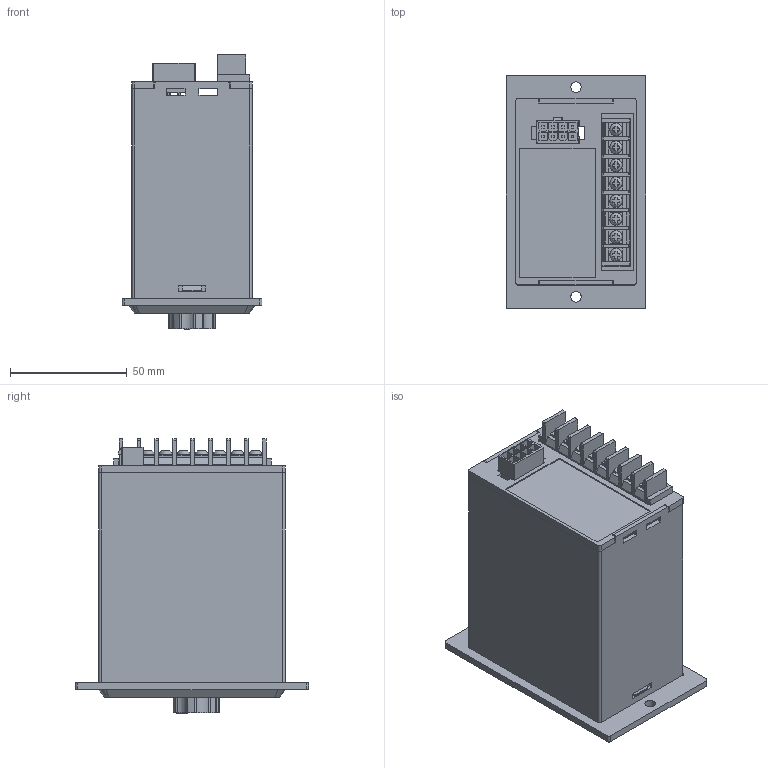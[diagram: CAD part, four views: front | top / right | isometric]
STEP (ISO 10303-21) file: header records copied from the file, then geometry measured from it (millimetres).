
FILE_DESCRIPTION((''),'2;1');
FILE_NAME('D:\yang\Yang cw\SPG 업무\2. DC MOTOR\7. DC MOTOR 브로슈어\SPEED CONTROLLER\Imported Components\SUC COTROL BOX\SUC COTROL BOX.stp','2015-03-25T10:54:46',('ycw1227'),(''),'Autodesk Inventor 2013','Autodesk Inventor 2013','');
FILE_SCHEMA(('AUTOMOTIVE_DESIGN { 1 0 10303 214 1 1 1 1 }'));
Length unit declared in the file: millimetre
Products named in the file (1): 부품19
Bounding box: 60 x 100 x 117.55 mm (x, y, z)
Volume: 82117.2 mm3; surface area: 78693 mm2
Topology: 4 solids, 4 shells, 1965 faces, 5296 edges, 3524 vertices
Faces by surface type: plane 1280, bspline 517, cylinder 168
Full cylindrical faces by diameter (mm): 0.5 x2, 0.6 x1, 3 x9, 3.664 x1, 4 x1, 4.465 x8, 4.5 x2, 4.565 x8, 5.4 x8, 7 x1, 20 x1, 21 x1, 24 x1
Entity records: 64362 total; most frequent: CARTESIAN_POINT 18137, ORIENTED_EDGE 10478, DIRECTION 7390, EDGE_CURVE 5239, VECTOR 3734, LINE 3734, VERTEX_POINT 3519, EDGE_LOOP 2226
